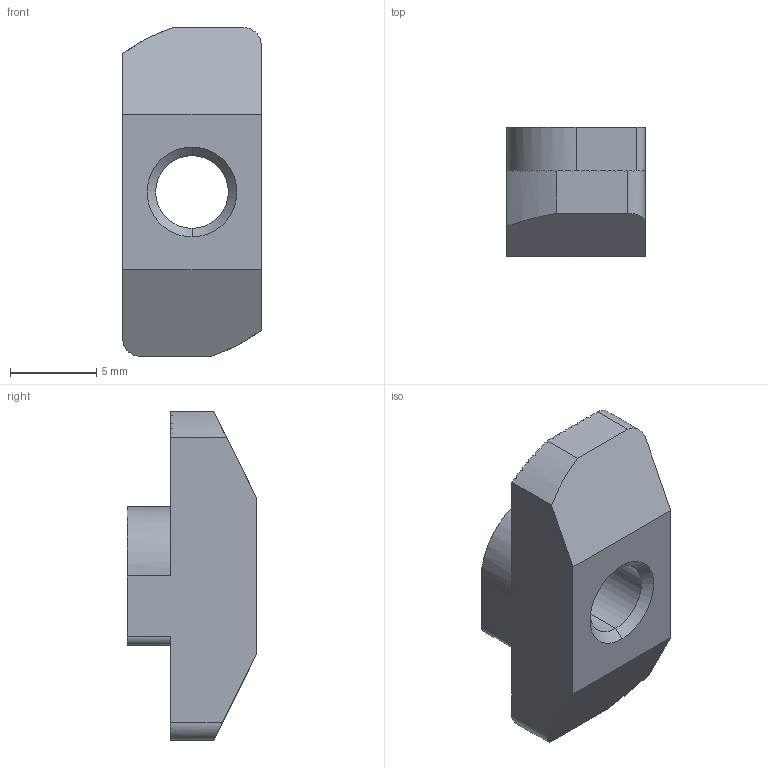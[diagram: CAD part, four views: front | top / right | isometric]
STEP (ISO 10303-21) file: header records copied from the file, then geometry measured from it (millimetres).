
FILE_DESCRIPTION (( 'STEP AP203' ), '1' );
FILE_NAME ('LIMA-RN5-84040.STEP', '2018-03-15T12:24:25', ( '' ), ( '' ), 'SwSTEP 2.0', 'SolidWorks 2013', '' );
FILE_SCHEMA (( 'CONFIG_CONTROL_DESIGN' ));
Length unit declared in the file: millimetre
Products named in the file (1): LIMA-RN5-84040
Bounding box: 8 x 7.5 x 19 mm (x, y, z)
Volume: 676.1 mm3; surface area: 649.7 mm2
Topology: 1 solids, 1 shells, 122 faces, 356 edges, 236 vertices
Faces by surface type: plane 108, cylinder 10, cone 4
Entity records: 4082 total; most frequent: CARTESIAN_POINT 931, ORIENTED_EDGE 712, DIRECTION 583, EDGE_CURVE 356, VERTEX_POINT 236, VECTOR 231, LINE 231, AXIS2_PLACEMENT_3D 176
